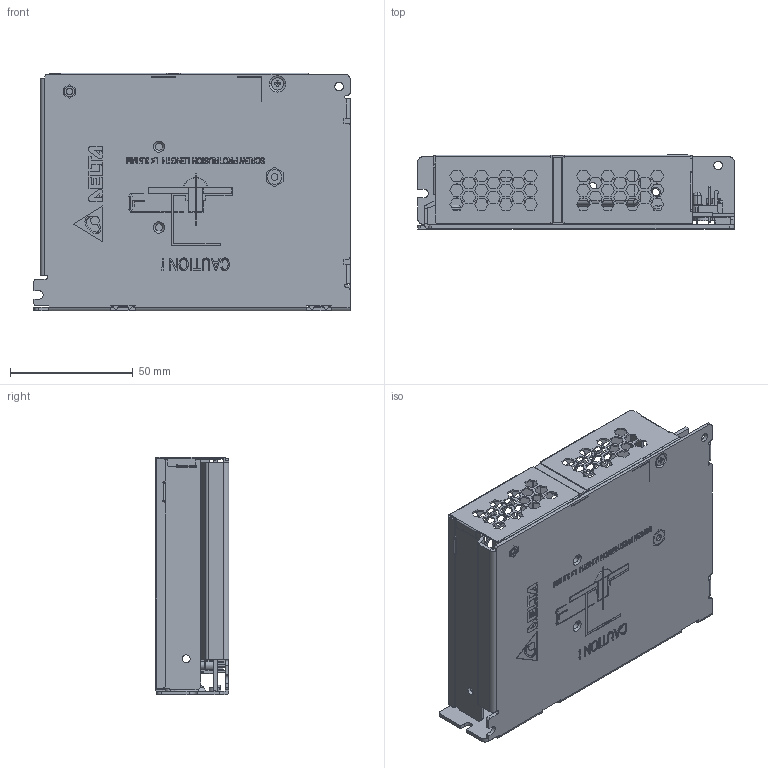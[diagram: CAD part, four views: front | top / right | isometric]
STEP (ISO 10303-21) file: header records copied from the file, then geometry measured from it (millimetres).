
FILE_DESCRIPTION((''),'2;1');
FILE_NAME('PMH-12V100WCLT_ASM','2018-03-09T',('Kidsada.Kohk'),(''),'PRO/ENGINEER BY PARAMETRIC TECHNOLOGY CORPORATION, 2010180','PRO/ENGINEER BY PARAMETRIC TECHNOLOGY CORPORATION, 2010180','');
FILE_SCHEMA(('CONFIG_CONTROL_DESIGN','SHAPE_APPEARANCE_LAYERS_GROUPS'));
Products named in the file (17): 330336890000_A_BODY; 330336890000_A_STUD6-32; 330336890000_A_STUDM3; 330336890000_ASM; 330336860000; PWB_MAINBOARD; 3076432931_JST; 3076433034-1; EE_VR131; EE_LED370; 312330170000_LED-HOLDER; ASSY_PWB-MAINBOARD_ASM; 3103300600_6-32; 3105469000; 3100300700; 3263670900; PMH-12V100WCLT_ASM
Assembly tree (16 placements, depth 3):
  PMH-12V100WCLT_ASM
    330336890000_ASM
      330336890000_A_BODY
      330336890000_A_STUD6-32
      330336890000_A_STUDM3
    330336860000
    ASSY_PWB-MAINBOARD_ASM
      PWB_MAINBOARD
      3076432931_JST
      3076433034-1
      EE_VR131
      EE_LED370
      312330170000_LED-HOLDER
    3103300600_6-32
    3105469000
    3100300700
    3263670900
Bounding box: 129 x 30.1 x 97 mm (x, y, z)
Volume: 53336.2 mm3; surface area: 89696.2 mm2
Topology: 14 solids, 14 shells, 4569 faces, 12550 edges, 7931 vertices
Faces by surface type: plane 3558, extrusion 376, cylinder 368, bspline 216, cone 41, torus 8, sphere 2
Entity records: 188404 total; most frequent: CARTESIAN_POINT 33381, ORIENTED_EDGE 25092, DIRECTION 20987, PRESENTATION_STYLE_ASSIGNMENT 12575, EDGE_CURVE 12546, STYLED_ITEM 12347, CURVE_STYLE 12334, VECTOR 11281
